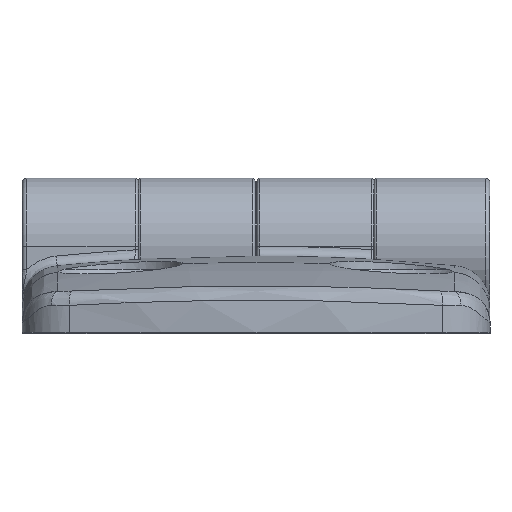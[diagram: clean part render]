
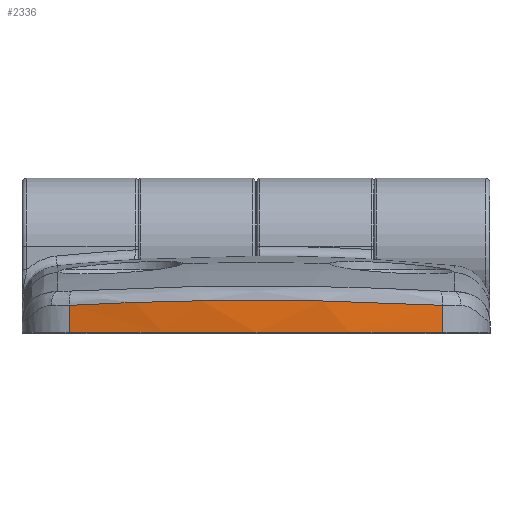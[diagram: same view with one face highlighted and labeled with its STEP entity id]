
A CAD part, top view. The second image highlights one B-rep face of the part: STEP entity #2336.
In plain terms, the highlighted cylindrical face has radius 100 mm (diameter 200 mm), a partial arc.
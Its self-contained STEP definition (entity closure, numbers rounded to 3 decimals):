
#506 = LINE ( 'NONE', #4838, #6113 ) ;
#507 = LINE ( 'NONE', #5195, #5987 ) ;
#586 = CYLINDRICAL_SURFACE ( 'NONE', #6147, 100. ) ;
#591 = FACE_OUTER_BOUND ( 'NONE', #7732, .T. ) ;
#2186 = EDGE_CURVE ( 'NONE', #3125, #3804, #6106, .T. ) ;
#2224 = EDGE_CURVE ( 'NONE', #2957, #3290, #5861, .T. ) ;
#2227 = EDGE_CURVE ( 'NONE', #2957, #3804, #507, .T. ) ;
#2228 = EDGE_CURVE ( 'NONE', #3290, #3125, #506, .T. ) ;
#2336 = ADVANCED_FACE ( 'NONE', ( #591 ), #586, .T. ) ;
#2543 = CARTESIAN_POINT ( 'NONE',  ( -19.149, 0., -41.649 ) ) ;
#2957 = VERTEX_POINT ( 'NONE', #9586 ) ;
#3125 = VERTEX_POINT ( 'NONE', #9563 ) ;
#3290 = VERTEX_POINT ( 'NONE', #9447 ) ;
#3705 = ORIENTED_EDGE ( 'NONE', *, *, #2224, .T. ) ;
#3707 = ORIENTED_EDGE ( 'NONE', *, *, #2228, .T. ) ;
#3708 = ORIENTED_EDGE ( 'NONE', *, *, #2227, .F. ) ;
#3804 = VERTEX_POINT ( 'NONE', #2543 ) ;
#3828 = ORIENTED_EDGE ( 'NONE', *, *, #2186, .T. ) ;
#4770 = CARTESIAN_POINT ( 'NONE',  ( 0., 0., 56.5 ) ) ;
#4796 = CARTESIAN_POINT ( 'NONE',  ( -12.807, 3.077, -42.728 ) ) ;
#4803 = CARTESIAN_POINT ( 'NONE',  ( -15.982, 2.951, -42.267 ) ) ;
#4838 = CARTESIAN_POINT ( 'NONE',  ( 19.149, 15.9, -41.649 ) ) ;
#4842 = DIRECTION ( 'NONE',  ( 0., 0., -1. ) ) ;
#4867 = CARTESIAN_POINT ( 'NONE',  ( 11.163, 3.121, -42.888 ) ) ;
#4885 = CARTESIAN_POINT ( 'NONE',  ( 3.141, 3.288, -43.502 ) ) ;
#4895 = CARTESIAN_POINT ( 'NONE',  ( 6.345, 3.247, -43.351 ) ) ;
#4908 = CARTESIAN_POINT ( 'NONE',  ( -6.442, 3.245, -43.343 ) ) ;
#4934 = DIRECTION ( 'NONE',  ( 0., -1., 0. ) ) ;
#5039 = CARTESIAN_POINT ( 'NONE',  ( -19.149, 2.78, -41.649 ) ) ;
#5051 = CARTESIAN_POINT ( 'NONE',  ( 12.772, 3.068, -42.694 ) ) ;
#5060 = CARTESIAN_POINT ( 'NONE',  ( 17.564, 2.866, -41.959 ) ) ;
#5117 = CARTESIAN_POINT ( 'NONE',  ( -3.253, 3.287, -43.498 ) ) ;
#5148 = DIRECTION ( 'NONE',  ( 0., 1., 0. ) ) ;
#5194 = DIRECTION ( 'NONE',  ( 0., -1., 0. ) ) ;
#5195 = CARTESIAN_POINT ( 'NONE',  ( -19.149, 15.9, -41.649 ) ) ;
#5209 = CARTESIAN_POINT ( 'NONE',  ( 15.972, 2.94, -42.23 ) ) ;
#5219 = CARTESIAN_POINT ( 'NONE',  ( 19.149, 2.78, -41.649 ) ) ;
#5861 = B_SPLINE_CURVE_WITH_KNOTS ( 'NONE', 3,
 ( #5039, #4803, #4796, #4908, #5117, #4885, #4895, #4867, #5051, #5209, #5060, #5219 ),
 .UNSPECIFIED., .F., .F.,
 ( 4, 2, 2, 2, 2, 4 ),
 ( 0.004, 0.014, 0.024, 0.033, 0.038, 0.043 ),
 .UNSPECIFIED. ) ;
#5987 = VECTOR ( 'NONE', #5194, 1000. ) ;
#6106 = CIRCLE ( 'NONE', #6205, 100. ) ;
#6113 = VECTOR ( 'NONE', #4934, 1000. ) ;
#6147 = AXIS2_PLACEMENT_3D ( 'NONE', #8806, #8748, #8569 ) ;
#6205 = AXIS2_PLACEMENT_3D ( 'NONE', #4770, #5148, #4842 ) ;
#7732 = EDGE_LOOP ( 'NONE', ( #3708, #3705, #3707, #3828 ) ) ;
#8569 = DIRECTION ( 'NONE',  ( 0., 0., -1. ) ) ;
#8748 = DIRECTION ( 'NONE',  ( 0., -1., 0. ) ) ;
#8806 = CARTESIAN_POINT ( 'NONE',  ( 0., 7.9, 56.5 ) ) ;
#9447 = CARTESIAN_POINT ( 'NONE',  ( 19.149, 2.78, -41.649 ) ) ;
#9563 = CARTESIAN_POINT ( 'NONE',  ( 19.149, 0., -41.649 ) ) ;
#9586 = CARTESIAN_POINT ( 'NONE',  ( -19.149, 2.78, -41.649 ) ) ;
